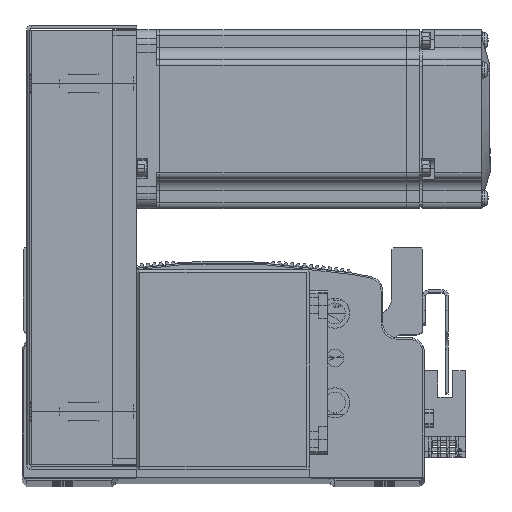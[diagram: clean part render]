
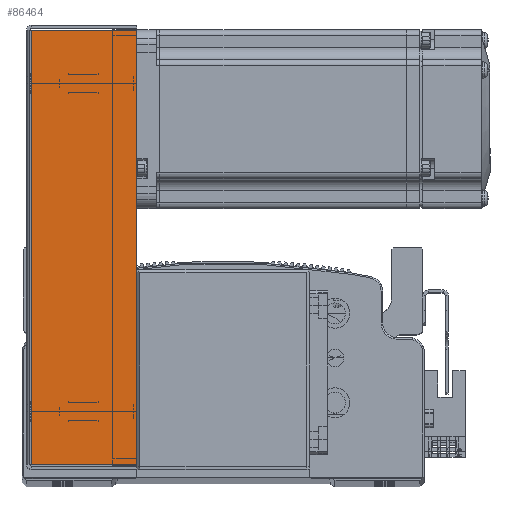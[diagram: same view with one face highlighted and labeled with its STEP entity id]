
A CAD part, top view. The second image highlights one B-rep face of the part: STEP entity #86464.
In plain terms, the highlighted planar face has unit normal (0, 0, 1).
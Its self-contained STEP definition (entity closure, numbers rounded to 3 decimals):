
#4776 = CARTESIAN_POINT ( 'NONE',  ( 0., 0., 34.5 ) ) ;
#4777 = DIRECTION ( 'NONE',  ( 0., 0., -1. ) ) ;
#4784 = DIRECTION ( 'NONE',  ( -1., 0., 0. ) ) ;
#4793 = PLANE ( 'NONE',  #21089 ) ;
#12386 = FACE_OUTER_BOUND ( 'NONE', #53206, .T. ) ;
#18136 = CARTESIAN_POINT ( 'NONE',  ( 72.793, 36., 34.5 ) ) ;
#18163 = CARTESIAN_POINT ( 'NONE',  ( -72.793, 36., 34.5 ) ) ;
#18174 = CARTESIAN_POINT ( 'NONE',  ( 72.793, 0.737, 34.5 ) ) ;
#18205 = CARTESIAN_POINT ( 'NONE',  ( -72.793, 0.737, 34.5 ) ) ;
#21089 = AXIS2_PLACEMENT_3D ( 'NONE', #4776, #4777, #4784 ) ;
#33821 = ORIENTED_EDGE ( 'NONE', *, *, #84955, .F. ) ;
#33838 = ORIENTED_EDGE ( 'NONE', *, *, #84941, .T. ) ;
#33858 = ORIENTED_EDGE ( 'NONE', *, *, #84905, .T. ) ;
#33867 = ORIENTED_EDGE ( 'NONE', *, *, #84933, .F. ) ;
#43031 = CARTESIAN_POINT ( 'NONE',  ( 0., 36., 34.5 ) ) ;
#43072 = DIRECTION ( 'NONE',  ( -1., 0., 0. ) ) ;
#43206 = CARTESIAN_POINT ( 'NONE',  ( 72.793, 0., 34.5 ) ) ;
#43245 = CARTESIAN_POINT ( 'NONE',  ( -74.5, 0.737, 34.5 ) ) ;
#43260 = DIRECTION ( 'NONE',  ( 0., 1., 0. ) ) ;
#43273 = DIRECTION ( 'NONE',  ( -1., 0., 0. ) ) ;
#43275 = DIRECTION ( 'NONE',  ( 0., 1., 0. ) ) ;
#43318 = CARTESIAN_POINT ( 'NONE',  ( -72.793, 0., 34.5 ) ) ;
#51777 = LINE ( 'NONE', #43031, #51779 ) ;
#51779 = VECTOR ( 'NONE', #43072, 1000. ) ;
#51827 = VECTOR ( 'NONE', #43260, 1000. ) ;
#51839 = VECTOR ( 'NONE', #43275, 1000. ) ;
#51845 = LINE ( 'NONE', #43245, #51901 ) ;
#51847 = LINE ( 'NONE', #43206, #51827 ) ;
#51849 = LINE ( 'NONE', #43318, #51839 ) ;
#51901 = VECTOR ( 'NONE', #43273, 1000. ) ;
#53206 = EDGE_LOOP ( 'NONE', ( #33867, #33838, #33858, #33821 ) ) ;
#78665 = VERTEX_POINT ( 'NONE', #18205 ) ;
#78747 = VERTEX_POINT ( 'NONE', #18174 ) ;
#78749 = VERTEX_POINT ( 'NONE', #18163 ) ;
#78751 = VERTEX_POINT ( 'NONE', #18136 ) ;
#84905 = EDGE_CURVE ( 'NONE', #78751, #78749, #51777, .T. ) ;
#84933 = EDGE_CURVE ( 'NONE', #78747, #78665, #51845, .T. ) ;
#84941 = EDGE_CURVE ( 'NONE', #78747, #78751, #51847, .T. ) ;
#84955 = EDGE_CURVE ( 'NONE', #78665, #78749, #51849, .T. ) ;
#86464 = ADVANCED_FACE ( 'NONE', ( #12386 ), #4793, .F. ) ;
